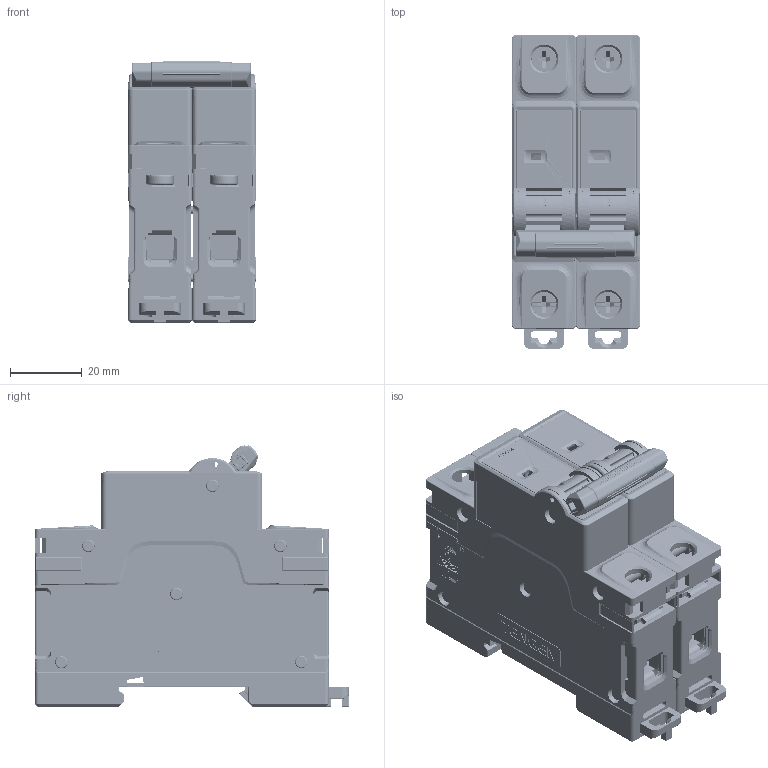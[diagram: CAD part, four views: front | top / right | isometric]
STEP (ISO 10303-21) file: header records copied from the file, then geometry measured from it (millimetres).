
FILE_DESCRIPTION (( 'STEP AP214' ), '1' );
FILE_NAME ('3D Model TGB3-63 2P.STEP', '2025-12-15T14:16:40', ( '' ), ( '' ), 'SwSTEP 2.0', 'SolidWorks 2024', '' );
FILE_SCHEMA (( 'AUTOMOTIVE_DESIGN' ));
Products named in the file (5): 3D Model TGB3-63 2P; TENGEN_TGB3-63L_2P_01_2.stp; TENGEN_TGB3-63L_2P_01_1.stp; TENGEN_TGB3-63L_2P_01_3.stp; 3D Model TGB3-63 2P.stp
Assembly tree (4 placements, depth 3):
  3D Model TGB3-63 2P
    3D Model TGB3-63 2P.stp
      TENGEN_TGB3-63L_2P_01_1.stp
      TENGEN_TGB3-63L_2P_01_2.stp
      TENGEN_TGB3-63L_2P_01_3.stp
Bounding box: 35.6 x 87.35 x 72.8 mm (x, y, z)
Volume: 81537.8 mm3; surface area: 87921.9 mm2
Topology: 1 solids, 15 shells, 11796 faces, 31890 edges, 20031 vertices
Faces by surface type: plane 7554, cylinder 2798, bspline 487, torus 431, sphere 339, cone 187
Entity records: 391781 total; most frequent: CARTESIAN_POINT 100056, ORIENTED_EDGE 63142, DIRECTION 57345, EDGE_CURVE 31573, VECTOR 22945, LINE 22945, VERTEX_POINT 20013, AXIS2_PLACEMENT_3D 17200
